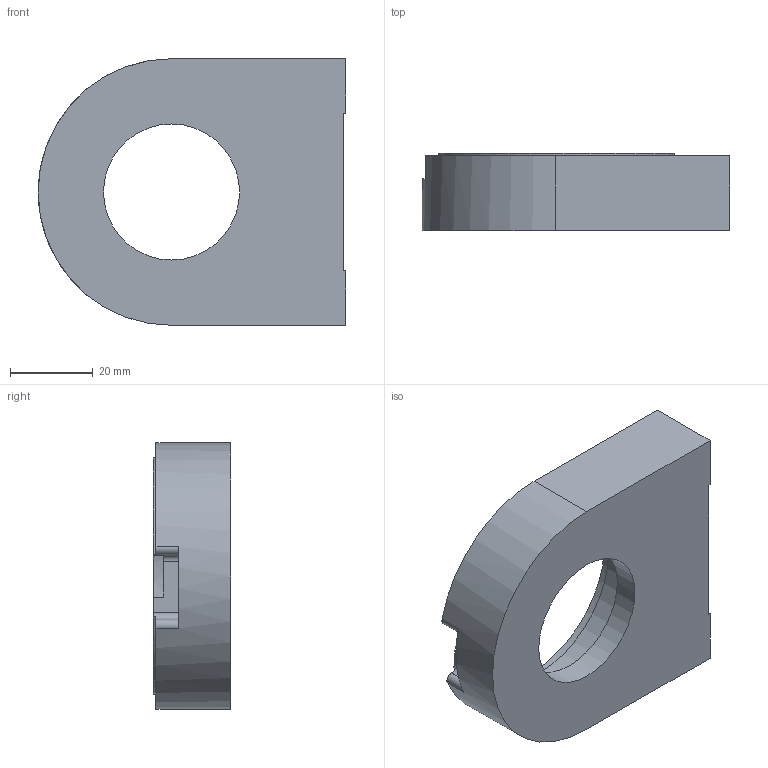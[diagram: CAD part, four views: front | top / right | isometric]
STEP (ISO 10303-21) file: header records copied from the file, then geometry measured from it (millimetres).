
FILE_DESCRIPTION(/* description */ (''),/* implementation_level */ '2;1');
FILE_NAME(/* name */ 'C:\Users\strothej\Documents\ActualDocuments\MicroscopeParts\TwoPhotonSystem\ScanningMechanics\v24\Drawings\Projection_Camera_Lens_Mount.stp',/* time_stamp */ '2017-04-04T13:11:08-07:00',/* author */ ('strothej'),/* organization */ (''),/* preprocessor_version */ 'ST-DEVELOPER v16.1',/* originating_system */ 'Autodesk Inventor 2016',/* authorisation */ '');
FILE_SCHEMA (('AUTOMOTIVE_DESIGN { 1 0 10303 214 3 1 1 }'));
Length unit declared in the file: millimetre
Products named in the file (1): Projection_Camera_Lens_Mount
Bounding box: 74.13 x 18.64 x 64.26 mm (x, y, z)
Volume: 51090.5 mm3; surface area: 14371.7 mm2
Topology: 1 solids, 1 shells, 49 faces, 126 edges, 82 vertices
Faces by surface type: plane 23, cylinder 20, cone 6
Full cylindrical faces by diameter (mm): 1.473 x4, 2.459 x2, 3 x1, 32.8 x1, 46.634 x1, 49.073 x1
Entity records: 1382 total; most frequent: DIRECTION 248, CARTESIAN_POINT 228, ORIENTED_EDGE 206, EDGE_CURVE 103, AXIS2_PLACEMENT_3D 95, VERTEX_POINT 75, EDGE_LOOP 70, LINE 58
